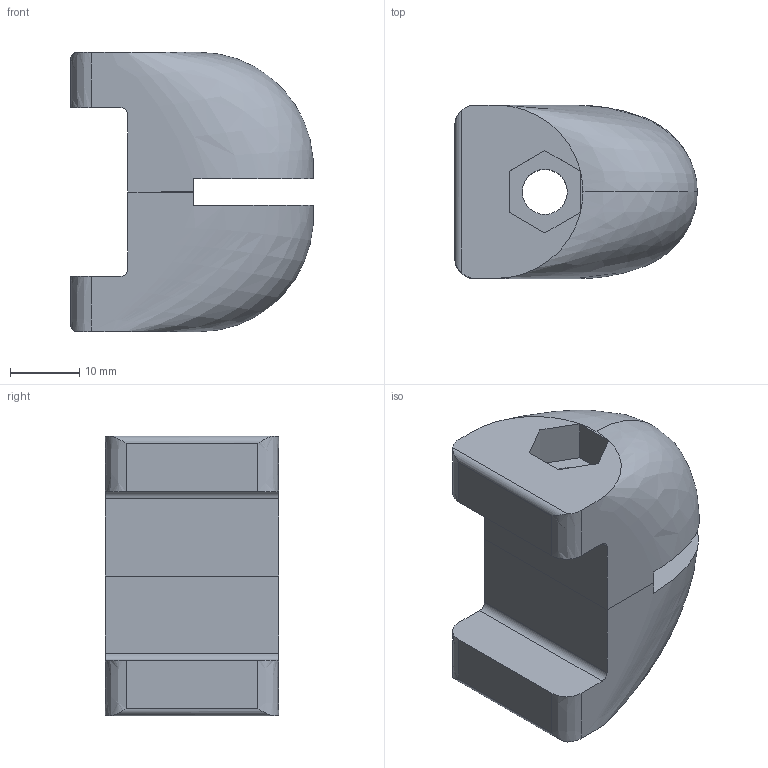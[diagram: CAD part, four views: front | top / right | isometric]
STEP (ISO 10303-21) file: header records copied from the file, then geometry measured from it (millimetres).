
FILE_DESCRIPTION (( 'STEP AP214' ), '1' );
FILE_NAME ('L19133A-L19133A 0.step', '2024-12-03T16:24:02', ( '' ), ( '' ), 'SwSTEP 2.0', 'SolidWorks 2023', '' );
FILE_SCHEMA (( 'AUTOMOTIVE_DESIGN' ));
Length unit declared in the file: millimetre
Products named in the file (2): L19133A; L19133A-L19133A 0
Assembly tree (2 placements, depth 2):
  L19133A-L19133A 0
    L19133A  x2
Bounding box: 35 x 25 x 40.3 mm (x, y, z)
Volume: 19898.7 mm3; surface area: 7080.1 mm2
Topology: 2 solids, 2 shells, 44 faces, 118 edges, 78 vertices
Faces by surface type: plane 30, bspline 8, cylinder 6
Full cylindrical faces by diameter (mm): 6.5 x2
Entity records: 1330 total; most frequent: CARTESIAN_POINT 746, ORIENTED_EDGE 114, DIRECTION 105, EDGE_CURVE 57, VERTEX_POINT 38, LINE 35, AXIS2_PLACEMENT_3D 35, VECTOR 35
